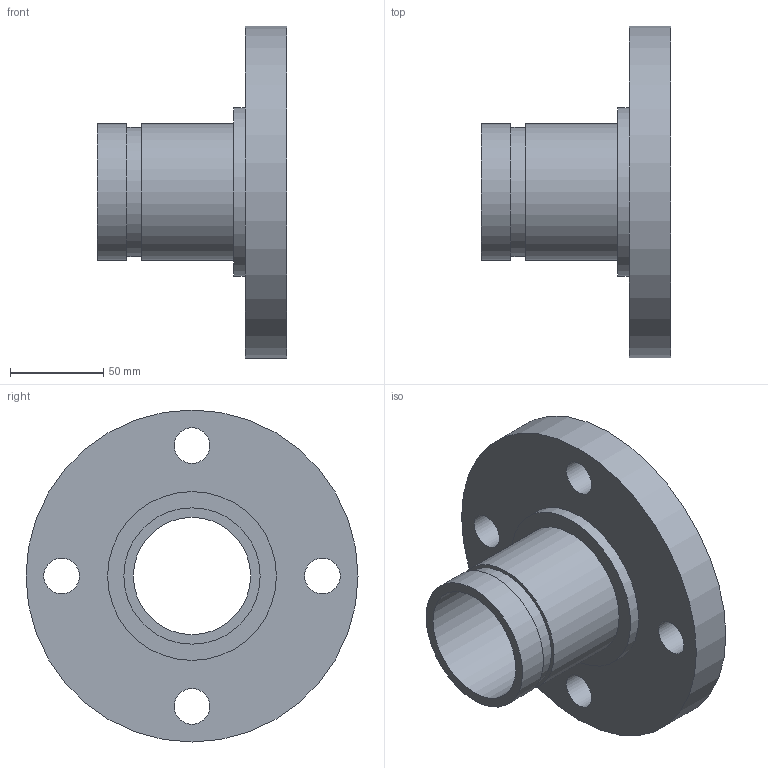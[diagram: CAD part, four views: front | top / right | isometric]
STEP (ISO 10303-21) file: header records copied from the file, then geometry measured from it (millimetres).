
FILE_DESCRIPTION(/* description */ ('VIC FLANGE ADAPTER No 45F','CAx-IF Rec.Pracs.---Representation and Presentation of Product Manufacturing Information (PMI)---4.0---2014-10-13'),/* implementation_level */ '2;1');
FILE_NAME(/* name */ 'C:\Users\kkamble\AppData\Roaming\Autodesk\ApplicationPlugins\Back Up\Victaulic_IPS_Flanged Adapter Nipple_CL 150 FF_No 45F (OGSxFLG)\Victaulic_IPS_Flanged Adapter Nipple_CL 150 FF_No 45F (OGSxFLG)_2.5 (65).stp',/* time_stamp */ '2020-07-26T22:22:52+06:00',/* author */ ('CONSTRUCTION PIPING SERVICES'),/* organization */ ('Victaulic'),/* preprocessor_version */ 'ST-DEVELOPER v17.2',/* originating_system */ 'Autodesk Inventor 2019',/* authorisation */ '');
FILE_SCHEMA (('AP242_MANAGED_MODEL_BASED_3D_ENGINEERING_MIM_LF { 1 0 10303 442 1 1 4 }'));
Length unit declared in the file: inch
Products named in the file (1): 045F-02.5
Bounding box: 101.6 x 177.8 x 177.8 mm (x, y, z)
Volume: 557690.9 mm3; surface area: 98346.9 mm2
Topology: 1 solids, 1 shells, 16 faces, 42 edges, 32 vertices
Faces by surface type: cylinder 10, plane 6
Full cylindrical faces by diameter (mm): 19.05 x4, 62.713 x1, 69.088 x1, 73.025 x2, 90.424 x1, 177.8 x1
Entity records: 622 total; most frequent: DIRECTION 108, CARTESIAN_POINT 91, ORIENTED_EDGE 84, AXIS2_PLACEMENT_3D 49, EDGE_CURVE 42, CIRCLE 32, VERTEX_POINT 32, EDGE_LOOP 30
